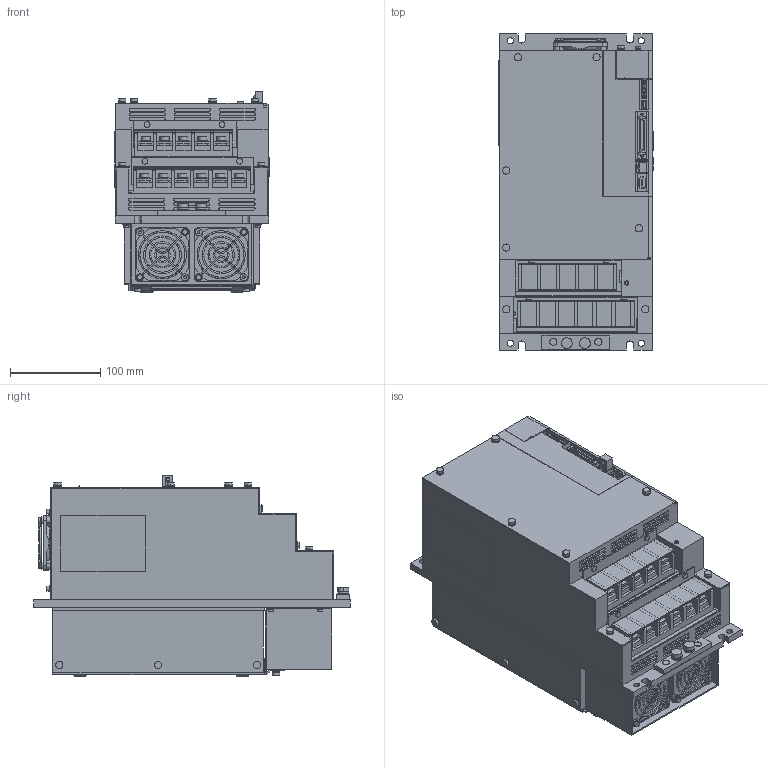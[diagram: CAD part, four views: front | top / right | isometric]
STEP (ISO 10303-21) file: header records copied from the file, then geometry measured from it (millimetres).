
FILE_DESCRIPTION (( 'STEP AP203' ), '1' );
FILE_NAME ('sgdv_470a0_a.STEP', '2008-07-10T09:23:19', ( 'T' ), ( 'T' ), 'SwSTEP 2.0', 'SolidWorks 2006052', '' );
FILE_SCHEMA (( 'CONFIG_CONTROL_DESIGN' ));
Length unit declared in the file: millimetre
Products named in the file (7): sgdv_470a0_a_cover3; sgdv_470a0_a_cover4; sgdv_470a0_a; sgdv_470a0_a_base; sgdv_470a0_a_cover; sgdv_470a0_a_cover2; sgdv_470a0_a_connector
Assembly tree (7 placements, depth 2):
  sgdv_470a0_a
    sgdv_470a0_a_cover3
    sgdv_470a0_a_cover2  x2
    sgdv_470a0_a_connector
    sgdv_470a0_a_cover4
    sgdv_470a0_a_cover
    sgdv_470a0_a_base
Bounding box: 170.6 x 350 x 223 mm (x, y, z)
Volume: 9162117.8 mm3; surface area: 492020.6 mm2
Topology: 7 solids, 7 shells, 2583 faces, 7036 edges, 4649 vertices
Faces by surface type: plane 1962, cylinder 603, cone 17, sphere 1
Entity records: 81537 total; most frequent: CARTESIAN_POINT 14268, ORIENTED_EDGE 13964, DIRECTION 13576, EDGE_CURVE 6982, LINE 5506, VECTOR 5506, VERTEX_POINT 4613, AXIS2_PLACEMENT_3D 4035
